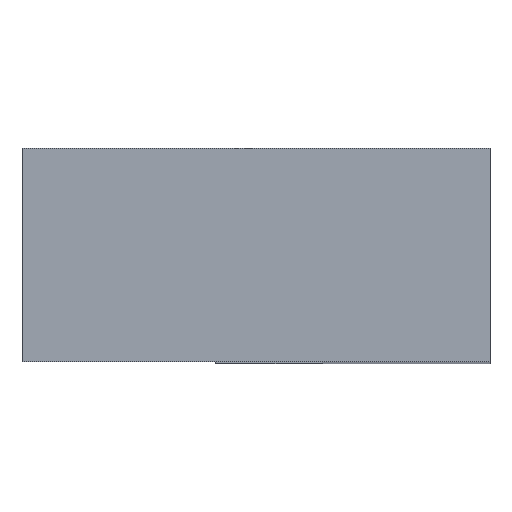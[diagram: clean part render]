
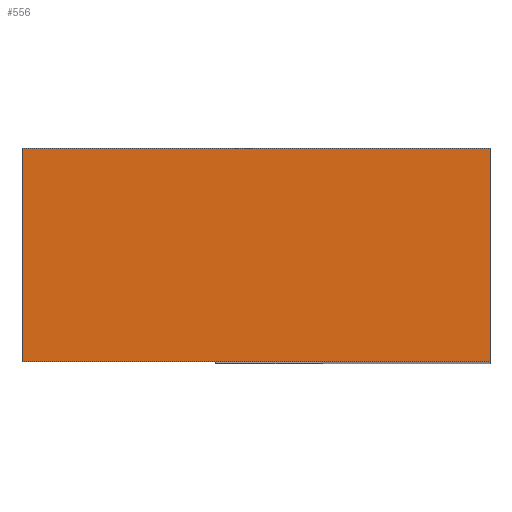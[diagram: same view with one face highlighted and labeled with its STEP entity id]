
A CAD part, top view. The second image highlights one B-rep face of the part: STEP entity #556.
In plain terms, the highlighted planar face has unit normal (0, 0, 1).
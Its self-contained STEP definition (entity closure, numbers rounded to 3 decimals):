
#24 = VERTEX_POINT('',#25);
#25 = CARTESIAN_POINT('',(-2.,20.2,26.3));
#32 = PLANE('',#33);
#33 = AXIS2_PLACEMENT_3D('',#34,#35,#36);
#34 = CARTESIAN_POINT('',(-24.,20.2,-112.));
#35 = DIRECTION('',(0.,1.,0.));
#36 = DIRECTION('',(0.,0.,1.));
#44 = PLANE('',#45);
#45 = AXIS2_PLACEMENT_3D('',#46,#47,#48);
#46 = CARTESIAN_POINT('',(-2.,20.2,-112.));
#47 = DIRECTION('',(1.,0.,0.));
#48 = DIRECTION('',(0.,0.,1.));
#253 = VERTEX_POINT('',#254);
#254 = CARTESIAN_POINT('',(-63.4,20.2,26.3));
#268 = PLANE('',#269);
#269 = AXIS2_PLACEMENT_3D('',#270,#271,#272);
#270 = CARTESIAN_POINT('',(-63.4,20.2,17.3));
#271 = DIRECTION('',(1.,0.,0.));
#272 = DIRECTION('',(0.,0.,1.));
#280 = EDGE_CURVE('',#24,#253,#281,.T.);
#281 = SURFACE_CURVE('',#282,(#286,#293),.PCURVE_S1.);
#282 = LINE('',#283,#284);
#283 = CARTESIAN_POINT('',(-2.,20.2,26.3));
#284 = VECTOR('',#285,1.);
#285 = DIRECTION('',(-1.,0.,0.));
#286 = PCURVE('',#32,#287);
#287 = DEFINITIONAL_REPRESENTATION('',(#288),#292);
#288 = LINE('',#289,#290);
#289 = CARTESIAN_POINT('',(138.3,22.));
#290 = VECTOR('',#291,1.);
#291 = DIRECTION('',(0.,-1.));
#292 = ( GEOMETRIC_REPRESENTATION_CONTEXT(2) 
PARAMETRIC_REPRESENTATION_CONTEXT() REPRESENTATION_CONTEXT('2D SPACE',''
  ) );
#293 = PCURVE('',#294,#299);
#294 = PLANE('',#295);
#295 = AXIS2_PLACEMENT_3D('',#296,#297,#298);
#296 = CARTESIAN_POINT('',(-24.,20.2,26.3));
#297 = DIRECTION('',(0.,0.,1.));
#298 = DIRECTION('',(1.,0.,0.));
#299 = DEFINITIONAL_REPRESENTATION('',(#300),#304);
#300 = LINE('',#301,#302);
#301 = CARTESIAN_POINT('',(22.,0.));
#302 = VECTOR('',#303,1.);
#303 = DIRECTION('',(-1.,0.));
#304 = ( GEOMETRIC_REPRESENTATION_CONTEXT(2) 
PARAMETRIC_REPRESENTATION_CONTEXT() REPRESENTATION_CONTEXT('2D SPACE',''
  ) );
#460 = VERTEX_POINT('',#461);
#461 = CARTESIAN_POINT('',(-2.,48.2,26.3));
#475 = PLANE('',#476);
#476 = AXIS2_PLACEMENT_3D('',#477,#478,#479);
#477 = CARTESIAN_POINT('',(-24.,48.2,-112.));
#478 = DIRECTION('',(0.,1.,0.));
#479 = DIRECTION('',(0.,0.,1.));
#487 = EDGE_CURVE('',#24,#460,#488,.T.);
#488 = SURFACE_CURVE('',#489,(#493,#500),.PCURVE_S1.);
#489 = LINE('',#490,#491);
#490 = CARTESIAN_POINT('',(-2.,20.2,26.3));
#491 = VECTOR('',#492,1.);
#492 = DIRECTION('',(0.,1.,0.));
#493 = PCURVE('',#44,#494);
#494 = DEFINITIONAL_REPRESENTATION('',(#495),#499);
#495 = LINE('',#496,#497);
#496 = CARTESIAN_POINT('',(138.3,0.));
#497 = VECTOR('',#498,1.);
#498 = DIRECTION('',(0.,-1.));
#499 = ( GEOMETRIC_REPRESENTATION_CONTEXT(2) 
PARAMETRIC_REPRESENTATION_CONTEXT() REPRESENTATION_CONTEXT('2D SPACE',''
  ) );
#500 = PCURVE('',#294,#501);
#501 = DEFINITIONAL_REPRESENTATION('',(#502),#506);
#502 = LINE('',#503,#504);
#503 = CARTESIAN_POINT('',(22.,0.));
#504 = VECTOR('',#505,1.);
#505 = DIRECTION('',(0.,1.));
#506 = ( GEOMETRIC_REPRESENTATION_CONTEXT(2) 
PARAMETRIC_REPRESENTATION_CONTEXT() REPRESENTATION_CONTEXT('2D SPACE',''
  ) );
#556 = ADVANCED_FACE('',(#557),#294,.T.);
#557 = FACE_BOUND('',#558,.T.);
#558 = EDGE_LOOP('',(#559,#582,#603,#604));
#559 = ORIENTED_EDGE('',*,*,#560,.F.);
#560 = EDGE_CURVE('',#561,#460,#563,.T.);
#561 = VERTEX_POINT('',#562);
#562 = CARTESIAN_POINT('',(-63.4,48.2,26.3));
#563 = SURFACE_CURVE('',#564,(#568,#575),.PCURVE_S1.);
#564 = LINE('',#565,#566);
#565 = CARTESIAN_POINT('',(-63.4,48.2,26.3));
#566 = VECTOR('',#567,1.);
#567 = DIRECTION('',(1.,0.,0.));
#568 = PCURVE('',#294,#569);
#569 = DEFINITIONAL_REPRESENTATION('',(#570),#574);
#570 = LINE('',#571,#572);
#571 = CARTESIAN_POINT('',(-39.4,28.));
#572 = VECTOR('',#573,1.);
#573 = DIRECTION('',(1.,0.));
#574 = ( GEOMETRIC_REPRESENTATION_CONTEXT(2) 
PARAMETRIC_REPRESENTATION_CONTEXT() REPRESENTATION_CONTEXT('2D SPACE',''
  ) );
#575 = PCURVE('',#475,#576);
#576 = DEFINITIONAL_REPRESENTATION('',(#577),#581);
#577 = LINE('',#578,#579);
#578 = CARTESIAN_POINT('',(138.3,-39.4));
#579 = VECTOR('',#580,1.);
#580 = DIRECTION('',(0.,1.));
#581 = ( GEOMETRIC_REPRESENTATION_CONTEXT(2) 
PARAMETRIC_REPRESENTATION_CONTEXT() REPRESENTATION_CONTEXT('2D SPACE',''
  ) );
#582 = ORIENTED_EDGE('',*,*,#583,.F.);
#583 = EDGE_CURVE('',#253,#561,#584,.T.);
#584 = SURFACE_CURVE('',#585,(#589,#596),.PCURVE_S1.);
#585 = LINE('',#586,#587);
#586 = CARTESIAN_POINT('',(-63.4,20.2,26.3));
#587 = VECTOR('',#588,1.);
#588 = DIRECTION('',(0.,1.,0.));
#589 = PCURVE('',#294,#590);
#590 = DEFINITIONAL_REPRESENTATION('',(#591),#595);
#591 = LINE('',#592,#593);
#592 = CARTESIAN_POINT('',(-39.4,0.));
#593 = VECTOR('',#594,1.);
#594 = DIRECTION('',(0.,1.));
#595 = ( GEOMETRIC_REPRESENTATION_CONTEXT(2) 
PARAMETRIC_REPRESENTATION_CONTEXT() REPRESENTATION_CONTEXT('2D SPACE',''
  ) );
#596 = PCURVE('',#268,#597);
#597 = DEFINITIONAL_REPRESENTATION('',(#598),#602);
#598 = LINE('',#599,#600);
#599 = CARTESIAN_POINT('',(9.,0.));
#600 = VECTOR('',#601,1.);
#601 = DIRECTION('',(0.,-1.));
#602 = ( GEOMETRIC_REPRESENTATION_CONTEXT(2) 
PARAMETRIC_REPRESENTATION_CONTEXT() REPRESENTATION_CONTEXT('2D SPACE',''
  ) );
#603 = ORIENTED_EDGE('',*,*,#280,.F.);
#604 = ORIENTED_EDGE('',*,*,#487,.T.);
